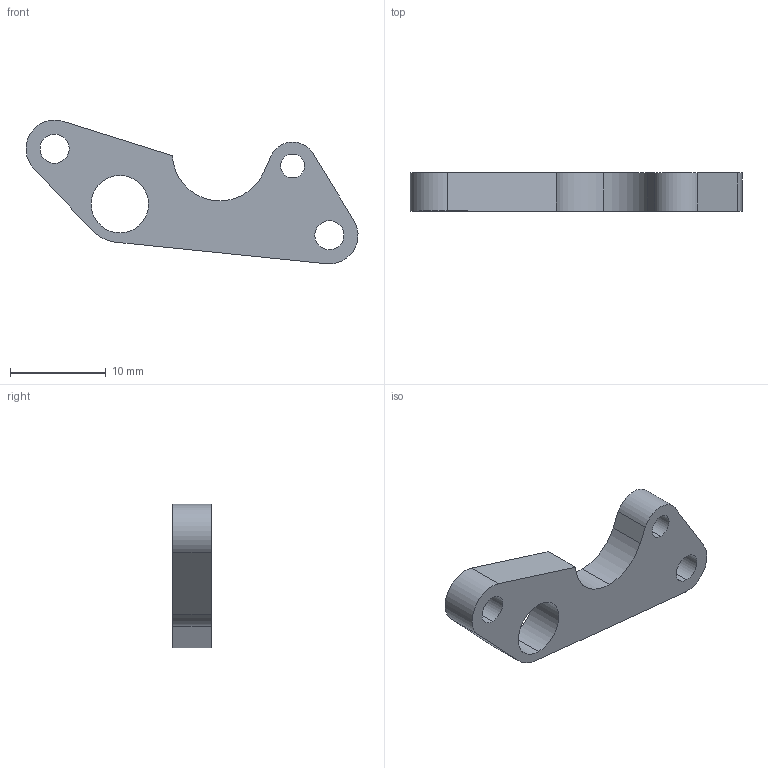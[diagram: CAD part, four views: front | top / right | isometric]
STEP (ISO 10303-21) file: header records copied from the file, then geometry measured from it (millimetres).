
FILE_DESCRIPTION (( 'STEP AP214' ), '1' );
FILE_NAME ('階窒棠沺嘐隅啣.STEP', '2026-04-12T11:15:35', ( '' ), ( '' ), 'SwSTEP 2.0', 'SolidWorks 2024', '' );
FILE_SCHEMA (( 'AUTOMOTIVE_DESIGN' ));
Length unit declared in the file: millimetre
Products named in the file (1): 顶部磁铁固定板
Bounding box: 34.74 x 4 x 15.05 mm (x, y, z)
Volume: 983 mm3; surface area: 1031.9 mm2
Topology: 1 solids, 1 shells, 22 faces, 60 edges, 40 vertices
Faces by surface type: cylinder 15, plane 7
Entity records: 753 total; most frequent: DIRECTION 136, CARTESIAN_POINT 123, ORIENTED_EDGE 120, EDGE_CURVE 60, AXIS2_PLACEMENT_3D 53, VERTEX_POINT 40, VECTOR 30, LINE 30
